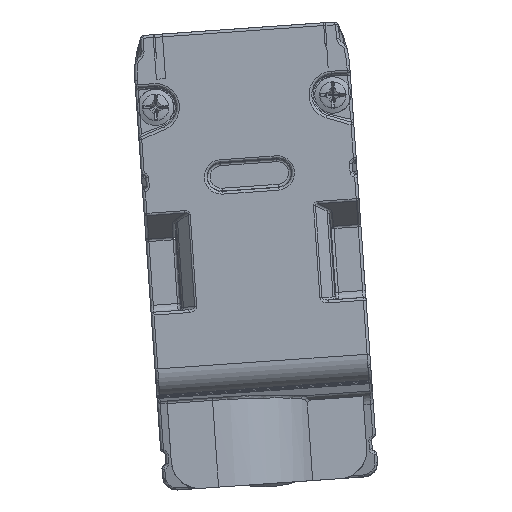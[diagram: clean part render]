
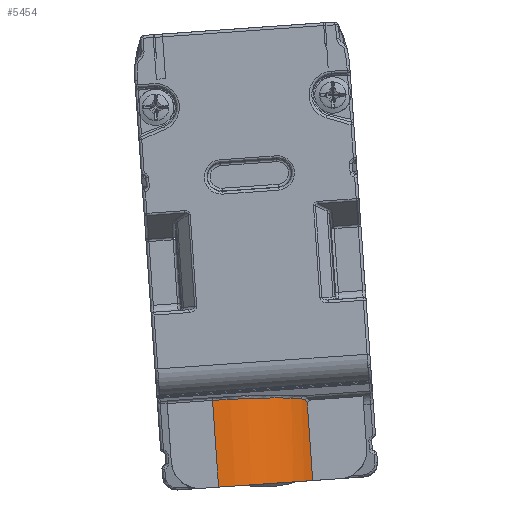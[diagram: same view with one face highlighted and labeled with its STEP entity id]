
A CAD part, front view. The second image highlights one B-rep face of the part: STEP entity #5454.
In plain terms, the highlighted cylindrical face has radius 7.5 mm (diameter 15 mm), a partial arc.
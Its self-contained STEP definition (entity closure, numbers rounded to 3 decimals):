
#69=ELLIPSE('',#22539,7.53,7.5);
#737=CYLINDRICAL_SURFACE('',#22541,7.5);
#1467=LINE('',#32079,#3138);
#1468=LINE('',#32092,#3139);
#3138=VECTOR('',#25256,1.);
#3139=VECTOR('',#25259,1.);
#5053=B_SPLINE_CURVE_WITH_KNOTS('',3,(#32082,#32083,#32084,#32085,#32086,
#32087,#32088),.UNSPECIFIED.,.F.,.F.,(4,3,4),(0.,0.485,1.),.UNSPECIFIED.);
#5454=ADVANCED_FACE('',(#6614),#737,.T.);
#6614=FACE_OUTER_BOUND('',#7675,.T.);
#7675=EDGE_LOOP('',(#8956,#8957,#8958,#8959,#8960));
#8956=ORIENTED_EDGE('',*,*,#17284,.T.);
#8957=ORIENTED_EDGE('',*,*,#17285,.T.);
#8958=ORIENTED_EDGE('',*,*,#17286,.T.);
#8959=ORIENTED_EDGE('',*,*,#17287,.T.);
#8960=ORIENTED_EDGE('',*,*,#17288,.F.);
#14694=VERTEX_POINT('',#32080);
#14695=VERTEX_POINT('',#32081);
#14696=VERTEX_POINT('',#32089);
#14697=VERTEX_POINT('',#32091);
#14698=VERTEX_POINT('',#32093);
#17284=EDGE_CURVE('',#14694,#14695,#1467,.T.);
#17285=EDGE_CURVE('',#14695,#14696,#5053,.T.);
#17286=EDGE_CURVE('',#14696,#14697,#69,.T.);
#17287=EDGE_CURVE('',#14697,#14698,#1468,.T.);
#17288=EDGE_CURVE('',#14694,#14698,#20878,.T.);
#20878=CIRCLE('',#22540,7.5);
#22539=AXIS2_PLACEMENT_3D('',#32090,#25257,#25258);
#22540=AXIS2_PLACEMENT_3D('',#32094,#25260,#25261);
#22541=AXIS2_PLACEMENT_3D('',#32095,#25262,#25263);
#25256=DIRECTION('',(-0.07,0.,0.998));
#25257=DIRECTION('',(0.069,-0.089,-0.994));
#25258=DIRECTION('',(0.006,0.996,-0.089));
#25259=DIRECTION('',(0.07,0.,-0.998));
#25260=DIRECTION('',(0.07,0.,-0.998));
#25261=DIRECTION('',(0.998,0.,0.07));
#25262=DIRECTION('',(0.07,0.,-0.998));
#25263=DIRECTION('',(0.,-1.,0.));
#32079=CARTESIAN_POINT('',(-40.701,-440.597,14.888));
#32080=CARTESIAN_POINT('',(-40.701,-440.597,14.888));
#32081=CARTESIAN_POINT('',(-41.088,-440.597,20.435));
#32082=CARTESIAN_POINT('',(-41.088,-440.597,20.435));
#32083=CARTESIAN_POINT('',(-41.139,-440.686,20.528));
#32084=CARTESIAN_POINT('',(-41.198,-440.793,20.603));
#32085=CARTESIAN_POINT('',(-41.263,-440.905,20.654));
#32086=CARTESIAN_POINT('',(-41.332,-441.024,20.708));
#32087=CARTESIAN_POINT('',(-41.408,-441.152,20.738));
#32088=CARTESIAN_POINT('',(-41.487,-441.278,20.743));
#32089=CARTESIAN_POINT('',(-41.487,-441.278,20.743));
#32090=CARTESIAN_POINT('',(-47.816,-437.318,19.944));
#32091=CARTESIAN_POINT('',(-47.863,-444.818,20.616));
#32092=CARTESIAN_POINT('',(-47.667,-444.818,17.815));
#32093=CARTESIAN_POINT('',(-47.43,-444.818,14.418));
#32094=CARTESIAN_POINT('',(-47.43,-437.318,14.418));
#32095=CARTESIAN_POINT('',(-52.434,-437.318,85.982));
